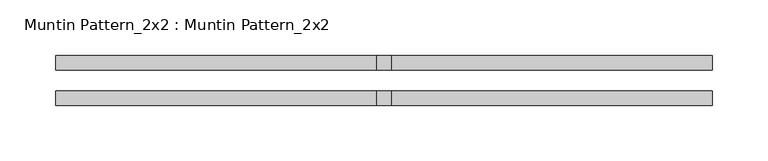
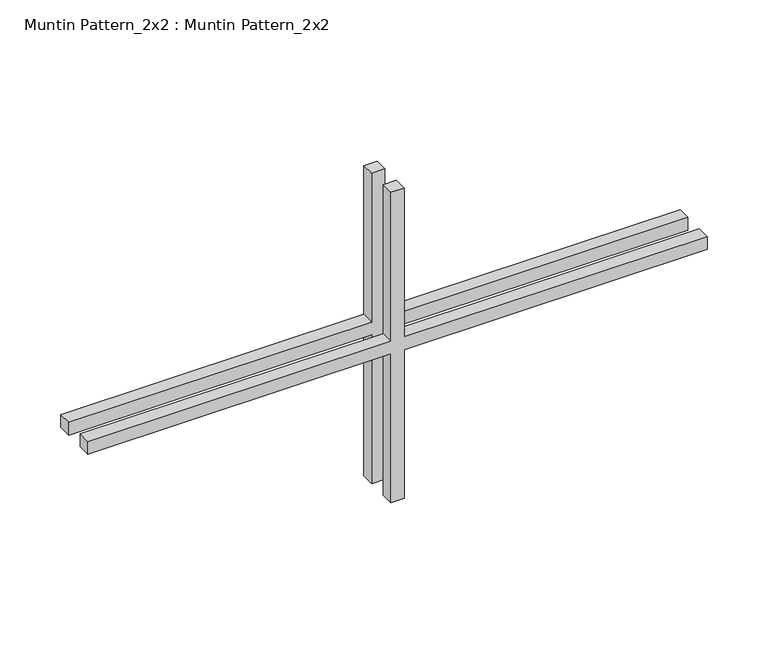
"""IFC4 building model written with IfcOpenShell, lengths in millimetres: proxy geometry, Muntin Pattern_2x2 : Muntin Pattern_2x2."""

import ifcopenshell
import ifcopenshell.guid

model = None  # the IFC model being written
_history = None  # IfcOwnerHistory: only IFC2X3 demands one
_inside = {}  # id of a spatial element -> (the spatial element, [elements in it])
_under = {}  # id of a project, library or spatial element -> (it, [spatial elements below it])
_declared = {}  # id of a project -> (the project, [libraries it declares])
_typed = {}  # id of a type object -> (the type object, [elements of that type])
_made_of = {}  # id of a material, layer set ... -> (it, [elements and type objects made of it])


def new_model(schema):
    """Start an empty IFC model of exactly this schema.

    Asked for "IFC4X3", IfcOpenShell would pick the latest addendum, in which some entities
    have other attributes; the version numbers below select the first issue.
    IFC2X3 requires an IfcOwnerHistory on every rooted entity: one is made here for all.
    """
    global model, _history
    if schema == "IFC4X3":
        model = ifcopenshell.file(schema_version=(4, 3, 0, 0))
    else:
        model = ifcopenshell.file(schema=schema)
    _inside.clear()
    _under.clear()
    _declared.clear()
    _typed.clear()
    _made_of.clear()
    _history = None
    if model.schema == "IFC2X3":
        org = make("IfcOrganization", Name="unknown")
        user = make(
            "IfcPersonAndOrganization",
            ThePerson=make("IfcPerson", FamilyName="unknown"),
            TheOrganization=org,
        )
        app = make(
            "IfcApplication",
            ApplicationDeveloper=org,
            Version="unknown",
            ApplicationFullName="unknown",
            ApplicationIdentifier="unknown",
        )
        _history = make(
            "IfcOwnerHistory",
            OwningUser=user,
            OwningApplication=app,
            ChangeAction="ADDED",
            CreationDate=0,
        )
    return model


def make(cls, **values):
    """One entity of the class cls with the attributes given. An attribute that is None is left unset."""
    return model.create_entity(
        cls, **{name: value for name, value in values.items() if value is not None}
    )


def rooted(cls, **values):
    """An entity with a GlobalId (a new one), such as an element, a storey or a relation."""
    return make(cls, GlobalId=ifcopenshell.guid.new(), OwnerHistory=_history, **values)


def si_unit(unit_type, name, prefix=None):
    """IfcSIUnit, for example si_unit("LENGTHUNIT", "METRE", prefix="MILLI")."""
    return make("IfcSIUnit", UnitType=unit_type, Prefix=prefix, Name=name)


def assignment(units):
    """IfcUnitAssignment: the units of a project."""
    return None if units is None else make("IfcUnitAssignment", Units=units)


def point(xyz):
    """IfcCartesianPoint."""
    return None if xyz is None else make("IfcCartesianPoint", Coordinates=xyz)


def direction(xyz):
    """IfcDirection."""
    return None if xyz is None else make("IfcDirection", DirectionRatios=xyz)


def frame(location, z_axis=None, x_axis=None):
    """IfcAxis2Placement3D, a coordinate frame: its origin and axes. An axis left out is left unset."""
    return make(
        "IfcAxis2Placement3D",
        Location=point(location),
        Axis=direction(z_axis),
        RefDirection=direction(x_axis),
    )


def origin():
    """The frame at (0, 0, 0) with its axes left unset."""
    return frame((0.0, 0.0, 0.0))


def place(relative_to, where):
    """IfcLocalPlacement: puts the frame where relative to a parent placement (None: the world)."""
    return make(
        "IfcLocalPlacement", PlacementRelTo=relative_to, RelativePlacement=where
    )


def context(
    kind, dimensions, precision=None, world=None, true_north=None, identifier=None
):
    """IfcGeometricRepresentationContext, for example the 3D "Model" context."""
    return make(
        "IfcGeometricRepresentationContext",
        ContextIdentifier=identifier,
        ContextType=kind,
        CoordinateSpaceDimension=dimensions,
        Precision=precision,
        WorldCoordinateSystem=world,
        TrueNorth=true_north,
    )


def project(units=None, contexts=None):
    """IfcProject with its units and contexts."""
    return rooted(
        "IfcProject",
        Name="project",
        RepresentationContexts=contexts,
        UnitsInContext=assignment(units),
    )


def spatial(cls, under=None, at=None, **own):
    """A site, building, storey or space (cls), placed at a placement, below another one or the project."""
    s = rooted(cls, ObjectPlacement=at, **own)
    if under is not None:
        _under.setdefault(under.id(), (under, []))[1].append(s)
    return s


def polyline(points):
    """IfcPolyline through the points."""
    return make("IfcPolyline", Points=[point(p) for p in points])


def outline(outer, holes=None, kind="AREA"):
    """IfcArbitraryClosedProfileDef: a profile drawn as a closed curve; with holes, ...WithVoids."""
    if holes is None:
        return make("IfcArbitraryClosedProfileDef", ProfileType=kind, OuterCurve=outer)
    return make(
        "IfcArbitraryProfileDefWithVoids",
        ProfileType=kind,
        OuterCurve=outer,
        InnerCurves=holes,
    )


def extrude(swept, where, along, depth):
    """IfcExtrudedAreaSolid: the profile swept, set in the frame where, extruded along a direction by depth."""
    return make(
        "IfcExtrudedAreaSolid",
        SweptArea=swept,
        Position=where,
        ExtrudedDirection=direction(along),
        Depth=depth,
    )


def shape(context_of_items, identifier, shape_type, items):
    """IfcShapeRepresentation: the items that make up one representation, for example the "Body"."""
    return make(
        "IfcShapeRepresentation",
        ContextOfItems=context_of_items,
        RepresentationIdentifier=identifier,
        RepresentationType=shape_type,
        Items=items,
    )


def source(mapping_origin, context_of_items, identifier, shape_type, items):
    """IfcRepresentationMap: a shape defined once, which mapped items show again and again."""
    return make(
        "IfcRepresentationMap",
        MappingOrigin=mapping_origin,
        MappedRepresentation=shape(context_of_items, identifier, shape_type, items),
    )


def transform(
    local_origin,
    x_axis=None,
    y_axis=None,
    z_axis=None,
    scale=None,
    scale2=None,
    scale3=None,
    uniform=True,
):
    """IfcCartesianTransformationOperator3D, or its non-uniform kind. x_axis, y_axis, z_axis: its Axis1, 2, 3."""
    if uniform:
        return make(
            "IfcCartesianTransformationOperator3D",
            Axis1=direction(x_axis),
            Axis2=direction(y_axis),
            LocalOrigin=point(local_origin),
            Scale=scale,
            Axis3=direction(z_axis),
        )
    return make(
        "IfcCartesianTransformationOperator3DnonUniform",
        Axis1=direction(x_axis),
        Axis2=direction(y_axis),
        LocalOrigin=point(local_origin),
        Scale=scale,
        Axis3=direction(z_axis),
        Scale2=scale2,
        Scale3=scale3,
    )


def mapped(mapping_source, mapping_target):
    """IfcMappedItem: shows the shape of a source again, moved by a transform."""
    return make(
        "IfcMappedItem", MappingSource=mapping_source, MappingTarget=mapping_target
    )


def made_of(thing, what):
    """Note that an element or type object is made of a material, layer set ...; save() writes the relation."""
    if what is not None:
        _made_of.setdefault(what.id(), (what, []))[1].append(thing)
    return thing


def element(
    cls,
    number,
    at=None,
    inside=None,
    cuts=None,
    type_object=None,
    material=None,
    context=None,
    identifier="Body",
    shape_type=None,
    held_by="IfcProductDefinitionShape",
    body=None,
    shapes=None,
    **own,
):
    """One element of the class cls, such as IfcWall. Its Tag is "e" and its number.

    at: its placement. inside: the storey or other place that contains it. cuts: it is an
    opening in that element (IfcRelVoidsElement). A single representation is given by context,
    identifier, shape_type and body (its items); several are given by shapes. held_by: the class
    of the entity that holds the representations. save() writes the other relations.
    """
    e = rooted(cls, Tag="e%d" % number, ObjectPlacement=at, **own)
    if body is not None:
        shapes = [shape(context, identifier, shape_type, body)]
    if shapes is not None:
        e.Representation = make(held_by, Representations=shapes)
    if inside is not None:
        _inside.setdefault(inside.id(), (inside, []))[1].append(e)
    if cuts is not None:
        rooted(
            "IfcRelVoidsElement", RelatingBuildingElement=cuts, RelatedOpeningElement=e
        )
    if type_object is not None:
        _typed.setdefault(type_object.id(), (type_object, []))[1].append(e)
    return made_of(e, material)


def aggregate(whole, parts):
    """IfcRelAggregates: a whole, such as a stair, and the parts it consists of."""
    return rooted("IfcRelAggregates", RelatingObject=whole, RelatedObjects=parts)


def save(model, path):
    """Write the relations noted so far, then the file.

    IfcRelAggregates (storeys below a building ...), IfcRelContainedInSpatialStructure (elements
    in a storey), IfcRelDefinesByType, IfcRelAssociatesMaterial and IfcRelDeclares: one each for
    every whole, place, type object, material and project.
    """
    for whole, parts in _under.values():
        aggregate(whole, parts)
    for where, things in _inside.values():
        rooted(
            "IfcRelContainedInSpatialStructure",
            RelatedElements=things,
            RelatingStructure=where,
        )
    for kind, things in _typed.values():
        rooted("IfcRelDefinesByType", RelatedObjects=things, RelatingType=kind)
    for what, things in _made_of.values():
        rooted("IfcRelAssociatesMaterial", RelatedObjects=things, RelatingMaterial=what)
    for by, libraries in _declared.values():
        rooted("IfcRelDeclares", RelatingContext=by, RelatedDefinitions=libraries)
    model.write(path)


def muntin_pattern_2x2_muntin_pattern_2x2_2c45d3f9(model_context):
    return source(origin(), model_context, "Body", "SweptSolid", [
        extrude(outline(polyline([(161.925, -6.35), (161.925, -293.6875), (149.225, -293.6875), (149.225, -6.35), (0.0, -6.35), (0.0, 6.35), (149.225, 6.35), (149.225, 293.6875), (161.925, 293.6875), (161.925, 6.35), (311.15, 6.35), (311.15, -6.35), (161.925, -6.35)])), frame((0.0, 9.525, 0.0), z_axis=(0.0, 1.0, 0.0), x_axis=(0.0, 0.0, 1.0)), (0.0, 0.0, 1.0), 12.7),
        extrude(outline(polyline([(161.925, -6.35), (161.925, -293.6875), (149.225, -293.6875), (149.225, -6.35), (0.0, -6.35), (0.0, 6.35), (149.225, 6.35), (149.225, 293.6875), (161.925, 293.6875), (161.925, 6.35), (311.15, 6.35), (311.15, -6.35), (161.925, -6.35)])), frame((0.0, -22.225, 0.0), z_axis=(0.0, 1.0, 0.0), x_axis=(0.0, 0.0, 1.0)), (0.0, 0.0, 1.0), 12.7),
    ])


if __name__ == "__main__":
    model = new_model("IFC4")
    model_context = context("Model", 3, world=origin())
    ifc_project = project(units=[si_unit("LENGTHUNIT", "METRE", prefix="MILLI")], contexts=[model_context])
    site = spatial("IfcSite", under=ifc_project)
    building = spatial("IfcBuilding", under=site)
    placement = place(None, origin())
    muntin_pattern_2x2_muntin_pattern_2x2_shape = muntin_pattern_2x2_muntin_pattern_2x2_2c45d3f9(model_context)
    element("IfcBuildingElementProxy", 1, Name="Muntin Pattern_2x2 : Muntin Pattern_2x2", ObjectType="Muntin Pattern_2x2 : Muntin Pattern_2x2", at=placement, inside=building, context=model_context, shape_type="MappedRepresentation", body=[
        mapped(muntin_pattern_2x2_muntin_pattern_2x2_shape, transform((0.0, 0.0, 0.0), x_axis=(1.0, 0.0, 0.0), y_axis=(0.0, 1.0, 0.0), z_axis=(0.0, 0.0, 1.0))),
    ])
    save(model, "model.ifc")
